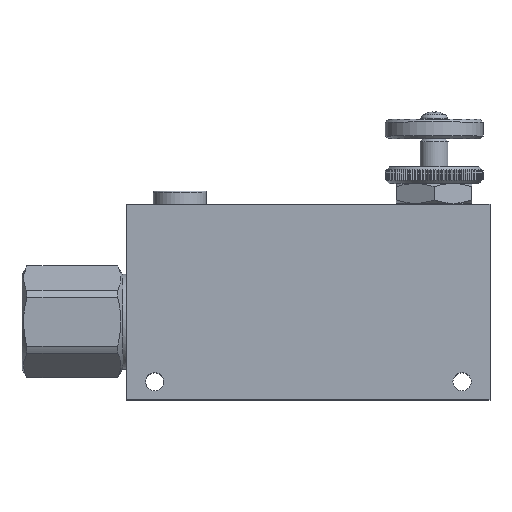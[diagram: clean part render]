
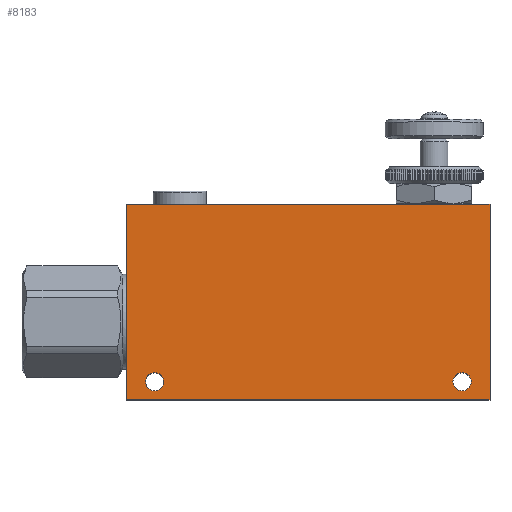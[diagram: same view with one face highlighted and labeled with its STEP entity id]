
A CAD part, top view. The second image highlights one B-rep face of the part: STEP entity #8183.
In plain terms, the highlighted planar face has unit normal (0, 0, 1).
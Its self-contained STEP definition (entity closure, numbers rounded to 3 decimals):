
#598=LINE('',#11282,#936);
#599=LINE('',#11284,#937);
#600=LINE('',#11286,#938);
#601=LINE('',#11287,#939);
#936=VECTOR('',#9431,70.);
#937=VECTOR('',#9432,130.);
#938=VECTOR('',#9433,70.);
#939=VECTOR('',#9434,130.);
#1275=FACE_BOUND('',#2153,.T.);
#1276=FACE_BOUND('',#2154,.T.);
#1653=FACE_OUTER_BOUND('',#2152,.T.);
#2152=EDGE_LOOP('',(#5058,#5059,#5060,#5061));
#2153=EDGE_LOOP('',(#5062));
#2154=EDGE_LOOP('',(#5063));
#2850=CIRCLE('',#8686,3.25);
#2851=CIRCLE('',#8687,3.25);
#3089=VERTEX_POINT('',#11280);
#3090=VERTEX_POINT('',#11281);
#3091=VERTEX_POINT('',#11283);
#3092=VERTEX_POINT('',#11285);
#3093=VERTEX_POINT('',#11288);
#3094=VERTEX_POINT('',#11290);
#3903=EDGE_CURVE('',#3089,#3090,#598,.T.);
#3904=EDGE_CURVE('',#3091,#3089,#599,.T.);
#3905=EDGE_CURVE('',#3092,#3091,#600,.T.);
#3906=EDGE_CURVE('',#3090,#3092,#601,.T.);
#3907=EDGE_CURVE('',#3093,#3093,#2850,.T.);
#3908=EDGE_CURVE('',#3094,#3094,#2851,.T.);
#5058=ORIENTED_EDGE('',*,*,#3903,.F.);
#5059=ORIENTED_EDGE('',*,*,#3904,.F.);
#5060=ORIENTED_EDGE('',*,*,#3905,.F.);
#5061=ORIENTED_EDGE('',*,*,#3906,.F.);
#5062=ORIENTED_EDGE('',*,*,#3907,.T.);
#5063=ORIENTED_EDGE('',*,*,#3908,.T.);
#7364=PLANE('',#8685);
#8183=ADVANCED_FACE('',(#1653,#1275,#1276),#7364,.T.);
#8685=AXIS2_PLACEMENT_3D('',#11279,#9429,#9430);
#8686=AXIS2_PLACEMENT_3D('',#11289,#9435,#9436);
#8687=AXIS2_PLACEMENT_3D('',#11291,#9437,#9438);
#9429=DIRECTION('center_axis',(0.,0.,1.));
#9430=DIRECTION('ref_axis',(1.,0.,0.));
#9431=DIRECTION('',(0.,1.,0.));
#9432=DIRECTION('',(-1.,0.,0.));
#9433=DIRECTION('',(0.,-1.,0.));
#9434=DIRECTION('',(1.,0.,0.));
#9435=DIRECTION('center_axis',(0.,0.,-1.));
#9436=DIRECTION('ref_axis',(1.,0.,0.));
#9437=DIRECTION('center_axis',(0.,0.,-1.));
#9438=DIRECTION('ref_axis',(1.,0.,0.));
#11279=CARTESIAN_POINT('Origin',(65.,35.,40.));
#11280=CARTESIAN_POINT('',(0.,0.,40.));
#11281=CARTESIAN_POINT('',(0.,70.,40.));
#11282=CARTESIAN_POINT('',(0.,70.,40.));
#11283=CARTESIAN_POINT('',(130.,0.,40.));
#11284=CARTESIAN_POINT('',(0.,0.,40.));
#11285=CARTESIAN_POINT('',(130.,70.,40.));
#11286=CARTESIAN_POINT('',(130.,0.,40.));
#11287=CARTESIAN_POINT('',(130.,70.,40.));
#11288=CARTESIAN_POINT('',(13.25,6.5,40.));
#11289=CARTESIAN_POINT('Origin',(10.,6.5,40.));
#11290=CARTESIAN_POINT('',(123.25,6.5,40.));
#11291=CARTESIAN_POINT('Origin',(120.,6.5,40.));
